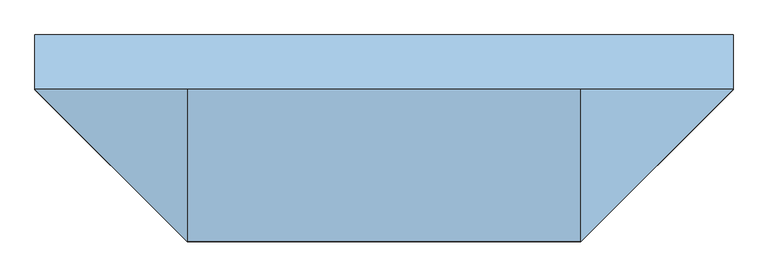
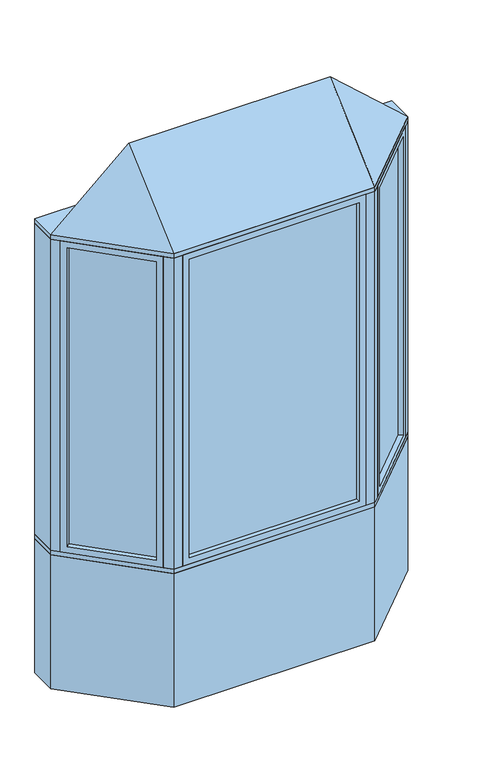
"""IFC4 building model written with IfcOpenShell, lengths in millimetres: window geometry, Pollard_Windows_Tudor Casement Bows and Bays : AML-BAY 45 AFR0618-08-500."""

from ifc_helpers import new_model, si_unit, frame, origin, origin_with_axes, place, context, project, spatial, polyline, outline, extrude, faceted_brep, source, transform, mapped, element, save


def window_1f869f44(model_context):
    return source(origin(), model_context, "Body", "SolidModel", [
        extrude(outline(polyline([(910.5964271, -104.763169), (584.824814, -430.5347822), (581.2327115, -426.9426797), (907.0043247, -101.1710666), (910.5964271, -104.763169)])), frame((0.0, 0.0, 823.1628), z_axis=(0.0, 0.0, 1.0), x_axis=(1.0, 0.0, 0.0)), (0.0, 0.0, 1.0), 1753.6704),
        faceted_brep([(901.616171, -113.7434252, 835.8628), (919.5766833, -131.7039374, 835.8628), (919.5766833, -131.7039374, 2564.1332), (901.616171, -113.7434252, 2564.1332), (907.0043247, -101.1710666, 823.1628), (910.5964271, -104.763169, 823.1628), (910.5964271, -104.763169, 2576.8332), (907.0043247, -101.1710666, 2576.8332), (880.0635563, -92.1908105, 835.8628), (898.0240686, -110.1513227, 835.8628), (898.0240686, -110.1513227, 2564.1332), (880.0635563, -92.1908105, 2564.1332), (944.9369265, -106.3436941, 799.998), (905.4237996, -66.8305672, 799.998), (905.4237996, -66.8305672, 2599.998), (944.9369265, -106.3436941, 2599.998), (611.7655823, -439.5150383, 2564.1332), (593.8050701, -421.5545261, 2564.1332), (584.824814, -430.5347822, 2576.8332), (581.2327115, -426.9426797, 2576.8332), (590.2129677, -417.9624236, 2564.1332), (572.2524554, -400.0019114, 2564.1332), (546.8922121, -425.3621547, 2599.998), (586.4053391, -464.8752816, 2599.998), (611.7655823, -439.5150383, 835.8628), (593.8050701, -421.5545261, 835.8628), (584.824814, -430.5347822, 823.1628), (581.2327115, -426.9426797, 823.1628), (590.2129677, -417.9624236, 835.8628), (572.2524554, -400.0019114, 835.8628), (546.8922121, -425.3621547, 799.998), (586.4053391, -464.8752816, 799.998)], [[[0, 1, 2, 3]], [[4, 5, 6, 7]], [[8, 9, 10, 11]], [[12, 13, 14, 15]], [[3, 2, 16, 17]], [[7, 6, 18, 19]], [[11, 10, 20, 21]], [[15, 14, 22, 23]], [[17, 16, 24, 25]], [[19, 18, 26, 27]], [[21, 20, 28, 29]], [[23, 22, 30, 31]], [[25, 24, 1, 0]], [[5, 26, 18, 6], [3, 17, 25, 0]], [[27, 26, 5, 4]], [[7, 19, 27, 4], [9, 28, 20, 10]], [[29, 28, 9, 8]], [[13, 30, 22, 14], [11, 21, 29, 8]], [[31, 30, 13, 12]], [[15, 23, 31, 12], [1, 24, 16, 2]]]),
        extrude(outline(polyline([(-584.824814, -430.5347822), (-910.5964271, -104.763169), (-907.0043247, -101.1710666), (-581.2327115, -426.9426797), (-584.824814, -430.5347822)])), frame((0.0, 0.0, 823.1628), z_axis=(0.0, 0.0, 1.0), x_axis=(1.0, 0.0, 0.0)), (0.0, 0.0, 1.0), 1753.6704),
        faceted_brep([(-590.2129677, -417.9624236, 2564.1332), (-572.2524554, -400.0019114, 2564.1332), (-572.2524554, -400.0019114, 835.8628), (-590.2129677, -417.9624236, 835.8628), (-584.824814, -430.5347822, 2576.8332), (-581.2327115, -426.9426797, 2576.8332), (-581.2327115, -426.9426797, 823.1628), (-584.824814, -430.5347822, 823.1628), (-611.7655823, -439.5150383, 2564.1332), (-593.8050701, -421.5545261, 2564.1332), (-593.8050701, -421.5545261, 835.8628), (-611.7655823, -439.5150383, 835.8628), (-546.8922121, -425.3621547, 2599.998), (-586.4053391, -464.8752816, 2599.998), (-586.4053391, -464.8752816, 799.998), (-546.8922121, -425.3621547, 799.998), (-880.0635563, -92.1908105, 835.8628), (-898.0240686, -110.1513227, 835.8628), (-907.0043247, -101.1710666, 823.1628), (-910.5964271, -104.763169, 823.1628), (-901.616171, -113.7434252, 835.8628), (-919.5766833, -131.7039374, 835.8628), (-944.9369265, -106.3436941, 799.998), (-905.4237996, -66.8305672, 799.998), (-880.0635563, -92.1908105, 2564.1332), (-898.0240686, -110.1513227, 2564.1332), (-907.0043247, -101.1710666, 2576.8332), (-910.5964271, -104.763169, 2576.8332), (-901.616171, -113.7434252, 2564.1332), (-919.5766833, -131.7039374, 2564.1332), (-944.9369265, -106.3436941, 2599.998), (-905.4237996, -66.8305672, 2599.998)], [[[0, 1, 2, 3]], [[4, 5, 6, 7]], [[8, 9, 10, 11]], [[12, 13, 14, 15]], [[3, 2, 16, 17]], [[7, 6, 18, 19]], [[11, 10, 20, 21]], [[15, 14, 22, 23]], [[17, 16, 24, 25]], [[19, 18, 26, 27]], [[21, 20, 28, 29]], [[23, 22, 30, 31]], [[15, 23, 31, 12], [1, 24, 16, 2]], [[25, 24, 1, 0]], [[5, 26, 18, 6], [3, 17, 25, 0]], [[27, 26, 5, 4]], [[7, 19, 27, 4], [9, 28, 20, 10]], [[29, 28, 9, 8]], [[13, 30, 22, 14], [11, 21, 29, 8]], [[31, 30, 13, 12]]]),
        extrude(outline(polyline([(477.8852, -474.8306207), (-477.8852, -474.8306207), (-477.8852, -469.7506207), (477.8852, -469.7506207), (477.8852, -474.8306207)])), frame((0.0, 0.0, 823.1628), z_axis=(0.0, 0.0, 1.0), x_axis=(1.0, 0.0, 0.0)), (0.0, 0.0, 1.0), 1753.6704),
        faceted_brep([(465.1852, -474.8306207, 835.8628), (465.1852, -500.2306207, 835.8628), (465.1852, -500.2306207, 2564.1332), (465.1852, -474.8306207, 2564.1332), (477.8852, -469.7506207, 823.1628), (477.8852, -474.8306207, 823.1628), (477.8852, -474.8306207, 2576.8332), (477.8852, -469.7506207, 2576.8332), (465.1852, -444.3506207, 835.8628), (465.1852, -469.7506207, 835.8628), (465.1852, -469.7506207, 2564.1332), (465.1852, -444.3506207, 2564.1332), (501.05, -500.2306207, 799.998), (501.05, -444.3506207, 799.998), (501.05, -444.3506207, 2599.998), (501.05, -500.2306207, 2599.998), (-465.1852, -500.2306207, 2564.1332), (-465.1852, -474.8306207, 2564.1332), (-477.8852, -474.8306207, 2576.8332), (-477.8852, -469.7506207, 2576.8332), (-465.1852, -469.7506207, 2564.1332), (-465.1852, -444.3506207, 2564.1332), (-501.05, -444.3506207, 2599.998), (-501.05, -500.2306207, 2599.998), (-465.1852, -500.2306207, 835.8628), (-465.1852, -474.8306207, 835.8628), (-477.8852, -474.8306207, 823.1628), (-477.8852, -469.7506207, 823.1628), (-465.1852, -469.7506207, 835.8628), (-465.1852, -444.3506207, 835.8628), (-501.05, -444.3506207, 799.998), (-501.05, -500.2306207, 799.998)], [[[0, 1, 2, 3]], [[4, 5, 6, 7]], [[8, 9, 10, 11]], [[12, 13, 14, 15]], [[3, 2, 16, 17]], [[7, 6, 18, 19]], [[11, 10, 20, 21]], [[15, 14, 22, 23]], [[17, 16, 24, 25]], [[19, 18, 26, 27]], [[21, 20, 28, 29]], [[23, 22, 30, 31]], [[15, 23, 31, 12], [1, 24, 16, 2]], [[25, 24, 1, 0]], [[5, 26, 18, 6], [3, 17, 25, 0]], [[27, 26, 5, 4]], [[7, 19, 27, 4], [9, 28, 20, 10]], [[29, 28, 9, 8]], [[13, 30, 22, 14], [11, 21, 29, 8]], [[31, 30, 13, 12]]]),
        faceted_brep([(976.5, -74.7806207, 2625.398), (551.05, -500.2306207, 2625.398), (-551.05, -500.2306207, 2625.398), (-976.5, -74.7806207, 2625.398), (-551.05, -74.7806207, 3006.398), (551.05, -74.7806207, 3006.398)], [[[0, 1, 2, 3]], [[3, 2, 4]], [[2, 1, 5, 4]], [[1, 0, 5]], [[0, 3, 4, 5]]]),
        extrude(outline(polyline([(-976.5, 77.6193793), (976.5, 77.6193793), (976.5, -74.7806207), (551.05, -500.2306207), (-551.05, -500.2306207), (-976.5, -74.7806207), (-976.5, 77.6193793)])), frame((0.0, 0.0, 2599.998), z_axis=(0.0, 0.0, 1.0), x_axis=(1.0, 0.0, 0.0)), (0.0, 0.0, 1.0), 25.4),
        extrude(outline(polyline([(-976.5, -74.7806207), (-976.5, 77.6193793), (-913.3738531, 77.6193793), (-913.3738531, -74.7806207), (-944.9369265, -106.3436941), (-976.5, -74.7806207)])), frame((0.0, 0.0, 799.998), z_axis=(0.0, 0.0, 1.0), x_axis=(1.0, 0.0, 0.0)), (0.0, 0.0, 1.0), 1800.0),
        extrude(outline(polyline([(976.5, 77.6193793), (976.5, -74.7806207), (944.9369265, -106.3436941), (913.3738531, -74.7806207), (913.3738531, 77.6193793), (976.5, 77.6193793)])), frame((0.0, 0.0, 799.998), z_axis=(0.0, 0.0, 1.0), x_axis=(1.0, 0.0, 0.0)), (0.0, 0.0, 1.0), 1800.0),
        extrude(outline(polyline([(551.05, -500.2306207), (501.05, -500.2306207), (501.05, -450.2306207), (530.3393219, -450.2306207), (551.05, -429.5199425), (586.4053391, -464.8752816), (551.05, -500.2306207)])), frame((0.0, 0.0, 799.998), z_axis=(0.0, 0.0, 1.0), x_axis=(1.0, 0.0, 0.0)), (0.0, 0.0, 1.0), 1800.0),
        extrude(outline(polyline([(-551.05, -500.2306207), (-586.4053391, -464.8752816), (-551.05, -429.5199425), (-530.3393219, -450.2306207), (-501.05, -450.2306207), (-501.05, -500.2306207), (-551.05, -500.2306207)])), frame((0.0, 0.0, 799.998), z_axis=(0.0, 0.0, 1.0), x_axis=(1.0, 0.0, 0.0)), (0.0, 0.0, 1.0), 1800.0),
        extrude(outline(polyline([(-551.05, -500.2306207), (-976.5, -74.7806207), (-976.5, 77.6193793), (-913.3738531, 77.6193793), (-487.9238531, -347.8306207), (487.9238531, -347.8306207), (913.3738531, 77.6193793), (976.5, 77.6193793), (976.5, -74.7806207), (551.05, -500.2306207), (-551.05, -500.2306207)])), frame((0.0, 0.0, 774.598), z_axis=(0.0, 0.0, 1.0), x_axis=(1.0, 0.0, 0.0)), (0.0, 0.0, 1.0), 25.4),
        extrude(outline(polyline([(-976.5, -74.7806207), (-976.5, 77.6193793), (-913.3738531, 77.6193793), (-487.9238531, -347.8306207), (487.9238531, -347.8306207), (913.3738531, 77.6193793), (976.5, 77.6193793), (976.5, -74.7806207), (551.05, -500.2306207), (-551.05, -500.2306207), (-976.5, -74.7806207)])), origin_with_axes(), (0.0, 0.0, 1.0), 774.598),
    ])


if __name__ == "__main__":
    model = new_model("IFC4")
    model_context = context("Model", 3, world=origin())
    ifc_project = project(units=[si_unit("LENGTHUNIT", "METRE", prefix="MILLI")], contexts=[model_context])
    site = spatial("IfcSite", under=ifc_project)
    building = spatial("IfcBuilding", under=site)
    placement = place(None, origin())
    window_shape = window_1f869f44(model_context)
    element("IfcWindow", 1, ObjectType="Pollard_Windows_Tudor Casement Bows and Bays : AML-BAY 45 AFR0618-08-500", at=placement, inside=building, context=model_context, shape_type="MappedRepresentation", body=[
        mapped(window_shape, transform((0.0, 0.0, 0.0), x_axis=(1.0, 0.0, 0.0), y_axis=(0.0, 1.0, 0.0), z_axis=(0.0, 0.0, 1.0))),
    ])
    save(model, "model.ifc")
